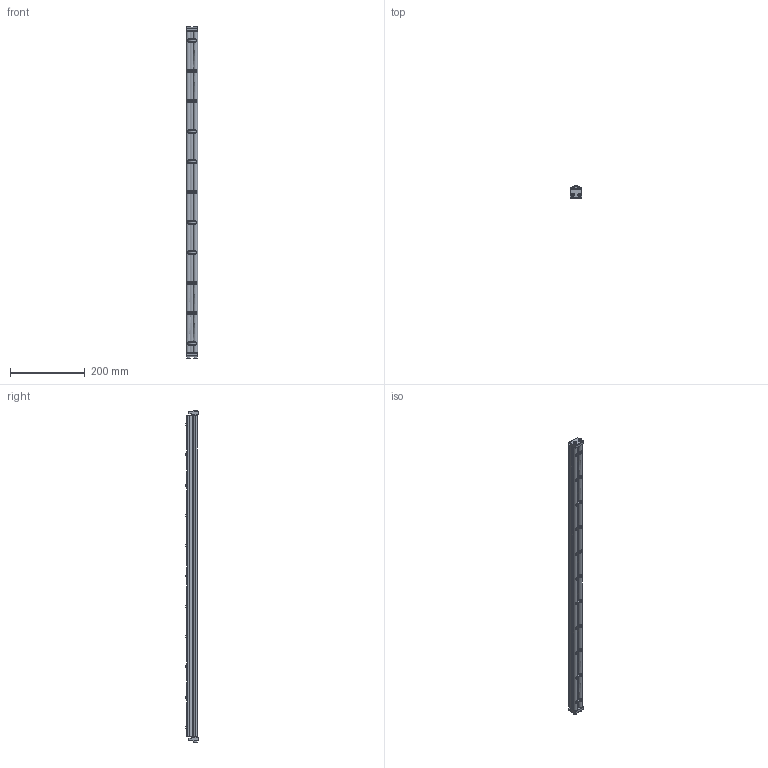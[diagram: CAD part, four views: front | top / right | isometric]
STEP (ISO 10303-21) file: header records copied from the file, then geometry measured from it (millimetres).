
FILE_DESCRIPTION((''),'2;1');
FILE_NAME('324934_ASM','2023-03-14T',('jenni.wallner'),(''),'PRO/ENGINEER BY PARAMETRIC TECHNOLOGY CORPORATION, 2012420','PRO/ENGINEER BY PARAMETRIC TECHNOLOGY CORPORATION, 2012420','');
FILE_SCHEMA(('CONFIG_CONTROL_DESIGN'));
Length unit declared in the file: inch
Products named in the file (7): 240826; X920693M; 2436WW_243634; 240827_CAE; 2410WW_CAE_241034; ASM0001_ASM; 324934_ASM
Assembly tree (20 placements, depth 3):
  324934_ASM
    ASM0001_ASM
      240826  x11
      X920693M  x4
      2436WW_243634
      240827_CAE  x2
      2410WW_CAE_241034
Bounding box: 30.88 x 33.34 x 891.01 mm (x, y, z)
Volume: 423212.8 mm3; surface area: 251980.6 mm2
Topology: 19 solids, 19 shells, 671 faces, 1904 edges, 1257 vertices
Faces by surface type: cylinder 307, plane 228, cone 92, torus 44
Entity records: 16421 total; most frequent: CARTESIAN_POINT 4388, ORIENTED_EDGE 2664, DIRECTION 2427, EDGE_CURVE 1332, AXIS2_PLACEMENT_3D 904, VERTEX_POINT 889, VECTOR 619, LINE 619
